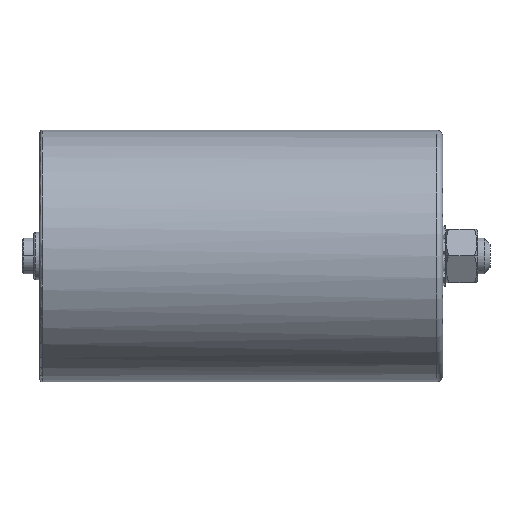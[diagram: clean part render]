
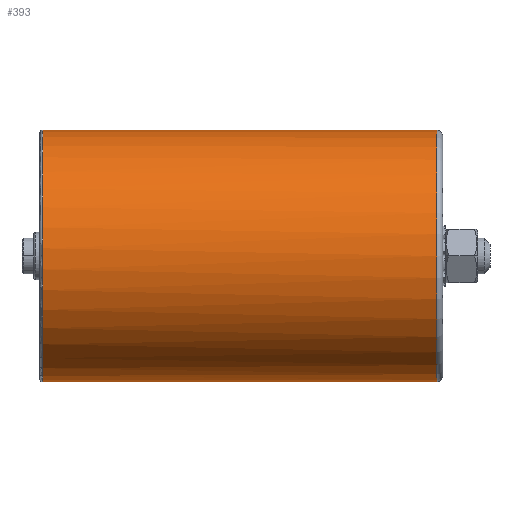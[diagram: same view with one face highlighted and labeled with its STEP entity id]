
A CAD part, left-side view. The second image highlights one B-rep face of the part: STEP entity #393.
In plain terms, the highlighted cylindrical face has radius 42.5 mm (diameter 85 mm), a partial arc.
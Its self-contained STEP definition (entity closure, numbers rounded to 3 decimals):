
#27 = CIRCLE ( 'NONE', #3430, 42.5 ) ;
#177 = DIRECTION ( 'NONE',  ( 0.585, 0., 0.811 ) ) ;
#221 = ORIENTED_EDGE ( 'NONE', *, *, #564, .T. ) ;
#393 = ADVANCED_FACE ( 'NONE', ( #3085 ), #1812, .T. ) ;
#396 = AXIS2_PLACEMENT_3D ( 'NONE', #2409, #2636, #3688 ) ;
#448 = DIRECTION ( 'NONE',  ( 0., -1., 0. ) ) ;
#512 = EDGE_LOOP ( 'NONE', ( #835, #1400, #221, #3327, #2514 ) ) ;
#532 = CIRCLE ( 'NONE', #396, 42.5 ) ;
#553 = EDGE_CURVE ( 'NONE', #3582, #2986, #1765, .T. ) ;
#564 = EDGE_CURVE ( 'NONE', #2871, #1960, #2202, .T. ) ;
#601 = CARTESIAN_POINT ( 'NONE',  ( 0., 2., 42.5 ) ) ;
#606 = EDGE_CURVE ( 'NONE', #3715, #2986, #532, .T. ) ;
#835 = ORIENTED_EDGE ( 'NONE', *, *, #553, .F. ) ;
#869 = DIRECTION ( 'NONE',  ( 0., -1., 0. ) ) ;
#920 = CARTESIAN_POINT ( 'NONE',  ( 0., 2., -42.5 ) ) ;
#929 = VECTOR ( 'NONE', #3942, 1000. ) ;
#1135 = CARTESIAN_POINT ( 'NONE',  ( 0., 135., 0. ) ) ;
#1201 = DIRECTION ( 'NONE',  ( 0.585, 0., 0.811 ) ) ;
#1400 = ORIENTED_EDGE ( 'NONE', *, *, #1982, .T. ) ;
#1599 = AXIS2_PLACEMENT_3D ( 'NONE', #1135, #448, #177 ) ;
#1765 = LINE ( 'NONE', #3645, #929 ) ;
#1812 = CYLINDRICAL_SURFACE ( 'NONE', #2005, 42.5 ) ;
#1865 = CARTESIAN_POINT ( 'NONE',  ( 0., 135., -42.5 ) ) ;
#1943 = LINE ( 'NONE', #3910, #3396 ) ;
#1960 = VERTEX_POINT ( 'NONE', #1865 ) ;
#1982 = EDGE_CURVE ( 'NONE', #3582, #2871, #27, .T. ) ;
#2005 = AXIS2_PLACEMENT_3D ( 'NONE', #3737, #869, #3447 ) ;
#2202 = CIRCLE ( 'NONE', #1599, 42.5 ) ;
#2409 = CARTESIAN_POINT ( 'NONE',  ( 0., 2., 0. ) ) ;
#2514 = ORIENTED_EDGE ( 'NONE', *, *, #606, .T. ) ;
#2636 = DIRECTION ( 'NONE',  ( 0., 1., 0. ) ) ;
#2666 = CARTESIAN_POINT ( 'NONE',  ( 0., 135., 42.5 ) ) ;
#2871 = VERTEX_POINT ( 'NONE', #3783 ) ;
#2986 = VERTEX_POINT ( 'NONE', #601 ) ;
#3085 = FACE_OUTER_BOUND ( 'NONE', #512, .T. ) ;
#3107 = CARTESIAN_POINT ( 'NONE',  ( 0., 135., 0. ) ) ;
#3181 = DIRECTION ( 'NONE',  ( 0., -1., 0. ) ) ;
#3327 = ORIENTED_EDGE ( 'NONE', *, *, #3852, .T. ) ;
#3396 = VECTOR ( 'NONE', #3181, 1000. ) ;
#3430 = AXIS2_PLACEMENT_3D ( 'NONE', #3107, #3779, #1201 ) ;
#3447 = DIRECTION ( 'NONE',  ( 0., 0., -1. ) ) ;
#3582 = VERTEX_POINT ( 'NONE', #2666 ) ;
#3645 = CARTESIAN_POINT ( 'NONE',  ( 0., 0., 42.5 ) ) ;
#3688 = DIRECTION ( 'NONE',  ( 0., 0., -1. ) ) ;
#3715 = VERTEX_POINT ( 'NONE', #920 ) ;
#3737 = CARTESIAN_POINT ( 'NONE',  ( 0., 0., 0. ) ) ;
#3779 = DIRECTION ( 'NONE',  ( 0., -1., 0. ) ) ;
#3783 = CARTESIAN_POINT ( 'NONE',  ( -24.861, 135., -34.47 ) ) ;
#3852 = EDGE_CURVE ( 'NONE', #1960, #3715, #1943, .T. ) ;
#3910 = CARTESIAN_POINT ( 'NONE',  ( 0., 0., -42.5 ) ) ;
#3942 = DIRECTION ( 'NONE',  ( 0., -1., 0. ) ) ;
